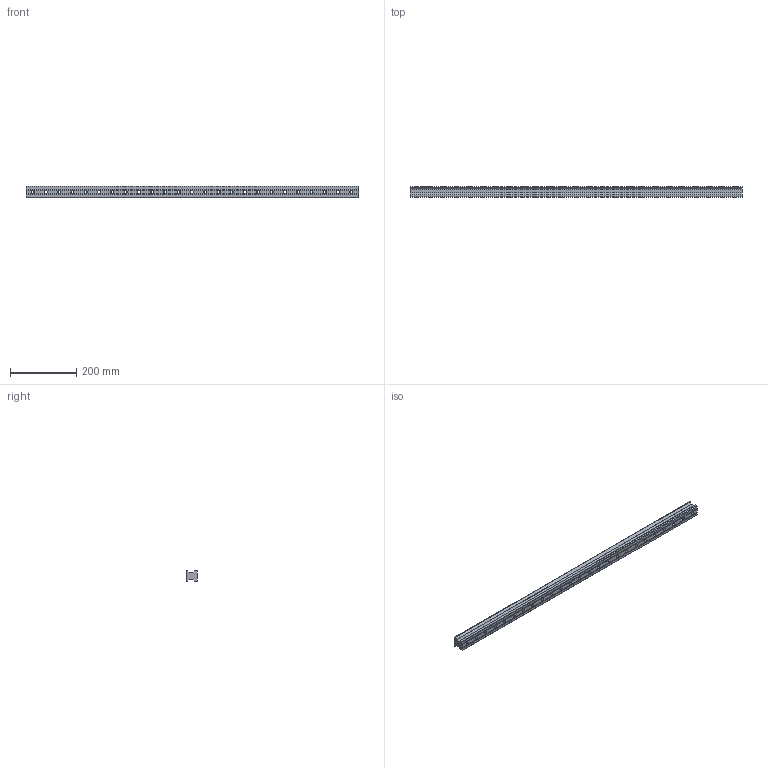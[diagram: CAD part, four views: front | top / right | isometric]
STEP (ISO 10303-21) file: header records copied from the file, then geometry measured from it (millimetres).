
FILE_DESCRIPTION(/* description */ (''),/* implementation_level */ '2;1');
FILE_NAME(/* name */ 'URR35R1000H_GW202603049640.stp',/* time_stamp */ '2026-03-30T23:04:32+08:00',/* author */ ('user'),/* organization */ (''),/* preprocessor_version */ 'ST-DEVELOPER v20.1',/* originating_system */ 'Autodesk Inventor 2026',/* authorisation */ '');
FILE_SCHEMA (('AUTOMOTIVE_DESIGN { 1 0 10303 214 3 1 1 }'));
Length unit declared in the file: centimetre
Products named in the file (2): URR35R1000H_GW202603049640; UR35
Assembly tree (1 placements, depth 2):
  URR35R1000H_GW202603049640
    UR35
Bounding box: 1000 x 32.5 x 34 mm (x, y, z)
Volume: 827506.8 mm3; surface area: 167129.7 mm2
Topology: 1 solids, 1 shells, 234 faces, 606 edges, 404 vertices
Faces by surface type: plane 117, cylinder 60, bspline 57
Full cylindrical faces by diameter (mm): 9 x25, 14 x25
Entity records: 8659 total; most frequent: CARTESIAN_POINT 3020, ORIENTED_EDGE 1212, DIRECTION 976, EDGE_CURVE 606, VERTEX_POINT 404, LINE 372, VECTOR 372, EDGE_LOOP 314
